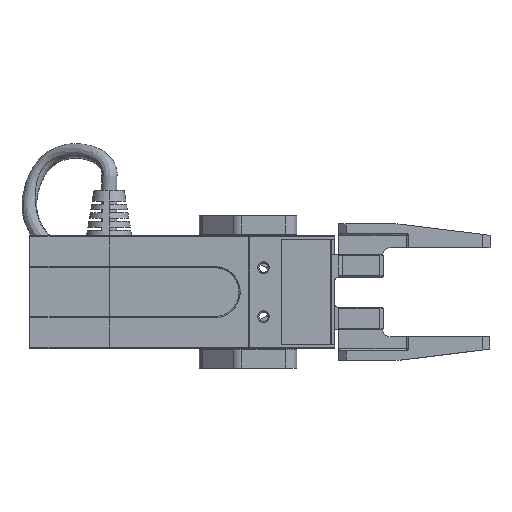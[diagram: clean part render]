
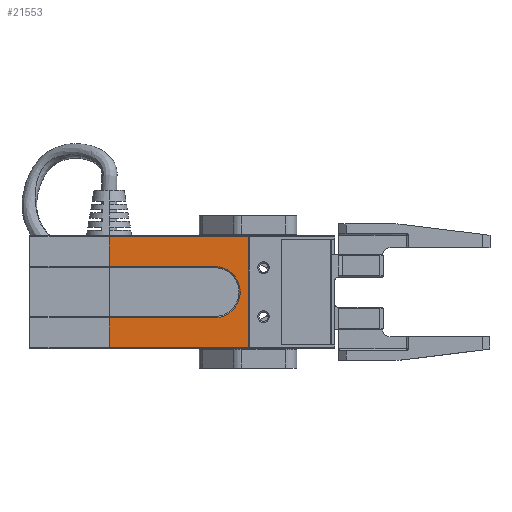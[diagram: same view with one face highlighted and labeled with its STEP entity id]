
A CAD part, top view. The second image highlights one B-rep face of the part: STEP entity #21553.
In plain terms, the highlighted planar face has unit normal (0, 0, 1).
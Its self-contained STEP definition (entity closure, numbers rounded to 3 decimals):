
#402 = DIRECTION ( 'NONE',  ( 0., -1., 0. ) ) ;
#497 = VECTOR ( 'NONE', #22512, 1000. ) ;
#797 = LINE ( 'NONE', #14807, #1315 ) ;
#849 = CARTESIAN_POINT ( 'NONE',  ( -11.4, 1.404, 83.272 ) ) ;
#1198 = VECTOR ( 'NONE', #3351, 1000. ) ;
#1315 = VECTOR ( 'NONE', #19753, 1000. ) ;
#1828 = EDGE_CURVE ( 'NONE', #16431, #3807, #15310, .T. ) ;
#1852 = DIRECTION ( 'NONE',  ( -1., 0., 0. ) ) ;
#2042 = LINE ( 'NONE', #9051, #22513 ) ;
#2406 = EDGE_CURVE ( 'NONE', #13102, #22065, #11812, .T. ) ;
#2600 = CARTESIAN_POINT ( 'NONE',  ( -39.4, -13.296, 83.272 ) ) ;
#2871 = CARTESIAN_POINT ( 'NONE',  ( -39.4, -5.396, 83.272 ) ) ;
#3299 = CARTESIAN_POINT ( 'NONE',  ( -11.4, 8.204, 83.272 ) ) ;
#3347 = CARTESIAN_POINT ( 'NONE',  ( 5., 16.104, 83.272 ) ) ;
#3351 = DIRECTION ( 'NONE',  ( 0., -1., 0. ) ) ;
#3646 = VECTOR ( 'NONE', #22723, 1000. ) ;
#3807 = VERTEX_POINT ( 'NONE', #11655 ) ;
#3823 = CARTESIAN_POINT ( 'NONE',  ( -2.4, 16.104, 83.272 ) ) ;
#3975 = FACE_OUTER_BOUND ( 'NONE', #20770, .T. ) ;
#4125 = VERTEX_POINT ( 'NONE', #8691 ) ;
#5261 = VECTOR ( 'NONE', #1852, 1000. ) ;
#5732 = EDGE_CURVE ( 'NONE', #13102, #5906, #797, .T. ) ;
#5906 = VERTEX_POINT ( 'NONE', #2600 ) ;
#6637 = LINE ( 'NONE', #22725, #5261 ) ;
#7337 = CARTESIAN_POINT ( 'NONE',  ( -39.4, 8.204, 83.272 ) ) ;
#8691 = CARTESIAN_POINT ( 'NONE',  ( -2.4, -13.296, 83.272 ) ) ;
#9051 = CARTESIAN_POINT ( 'NONE',  ( -2.4, 1.404, 83.272 ) ) ;
#9282 = CARTESIAN_POINT ( 'NONE',  ( -11.4, -5.396, 83.272 ) ) ;
#9683 = EDGE_CURVE ( 'NONE', #18944, #4125, #2042, .T. ) ;
#9979 = ORIENTED_EDGE ( 'NONE', *, *, #1828, .T. ) ;
#10810 = EDGE_CURVE ( 'NONE', #18944, #16431, #17354, .T. ) ;
#11655 = CARTESIAN_POINT ( 'NONE',  ( -39.4, 8.204, 83.272 ) ) ;
#11719 = CIRCLE ( 'NONE', #14636, 6.8 ) ;
#11724 = DIRECTION ( 'NONE',  ( 1., 0., 0. ) ) ;
#11812 = LINE ( 'NONE', #2871, #15739 ) ;
#12170 = LINE ( 'NONE', #7337, #3646 ) ;
#12299 = ORIENTED_EDGE ( 'NONE', *, *, #2406, .F. ) ;
#13102 = VERTEX_POINT ( 'NONE', #18693 ) ;
#14636 = AXIS2_PLACEMENT_3D ( 'NONE', #849, #20025, #20137 ) ;
#14807 = CARTESIAN_POINT ( 'NONE',  ( -39.4, 1.404, 83.272 ) ) ;
#14857 = ORIENTED_EDGE ( 'NONE', *, *, #5732, .T. ) ;
#15092 = ORIENTED_EDGE ( 'NONE', *, *, #9683, .F. ) ;
#15238 = ORIENTED_EDGE ( 'NONE', *, *, #20350, .F. ) ;
#15310 = LINE ( 'NONE', #17146, #1198 ) ;
#15739 = VECTOR ( 'NONE', #18813, 1000. ) ;
#15777 = AXIS2_PLACEMENT_3D ( 'NONE', #18099, #21174, #11724 ) ;
#15815 = ORIENTED_EDGE ( 'NONE', *, *, #10810, .T. ) ;
#16194 = ORIENTED_EDGE ( 'NONE', *, *, #17535, .F. ) ;
#16431 = VERTEX_POINT ( 'NONE', #20359 ) ;
#17146 = CARTESIAN_POINT ( 'NONE',  ( -39.4, 1.404, 83.272 ) ) ;
#17354 = LINE ( 'NONE', #3347, #497 ) ;
#17535 = EDGE_CURVE ( 'NONE', #4125, #5906, #6637, .T. ) ;
#18099 = CARTESIAN_POINT ( 'NONE',  ( -39.4, -13.596, 83.272 ) ) ;
#18693 = CARTESIAN_POINT ( 'NONE',  ( -39.4, -5.396, 83.272 ) ) ;
#18813 = DIRECTION ( 'NONE',  ( 1., 0., 0. ) ) ;
#18944 = VERTEX_POINT ( 'NONE', #3823 ) ;
#19753 = DIRECTION ( 'NONE',  ( 0., -1., 0. ) ) ;
#19828 = PLANE ( 'NONE',  #15777 ) ;
#20025 = DIRECTION ( 'NONE',  ( 0., 0., 1. ) ) ;
#20137 = DIRECTION ( 'NONE',  ( -1., 0., 0. ) ) ;
#20350 = EDGE_CURVE ( 'NONE', #22010, #3807, #12170, .T. ) ;
#20359 = CARTESIAN_POINT ( 'NONE',  ( -39.4, 16.104, 83.272 ) ) ;
#20770 = EDGE_LOOP ( 'NONE', ( #22356, #12299, #14857, #16194, #15092, #15815, #9979, #15238 ) ) ;
#21164 = EDGE_CURVE ( 'NONE', #22065, #22010, #11719, .T. ) ;
#21174 = DIRECTION ( 'NONE',  ( 0., 0., -1. ) ) ;
#21553 = ADVANCED_FACE ( 'NONE', ( #3975 ), #19828, .F. ) ;
#22010 = VERTEX_POINT ( 'NONE', #3299 ) ;
#22065 = VERTEX_POINT ( 'NONE', #9282 ) ;
#22356 = ORIENTED_EDGE ( 'NONE', *, *, #21164, .F. ) ;
#22512 = DIRECTION ( 'NONE',  ( -1., 0., 0. ) ) ;
#22513 = VECTOR ( 'NONE', #402, 1000. ) ;
#22723 = DIRECTION ( 'NONE',  ( -1., 0., 0. ) ) ;
#22725 = CARTESIAN_POINT ( 'NONE',  ( -39.4, -13.296, 83.272 ) ) ;
